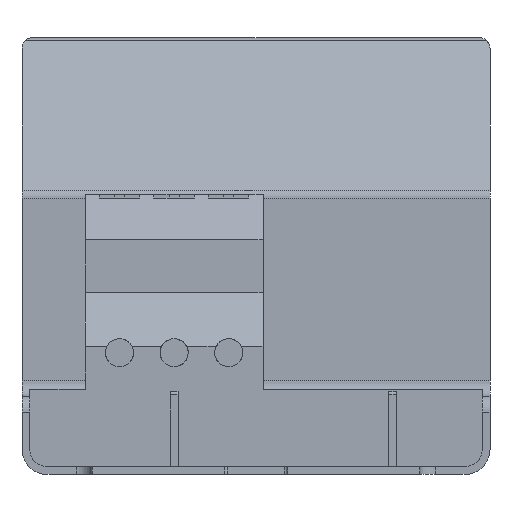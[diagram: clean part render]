
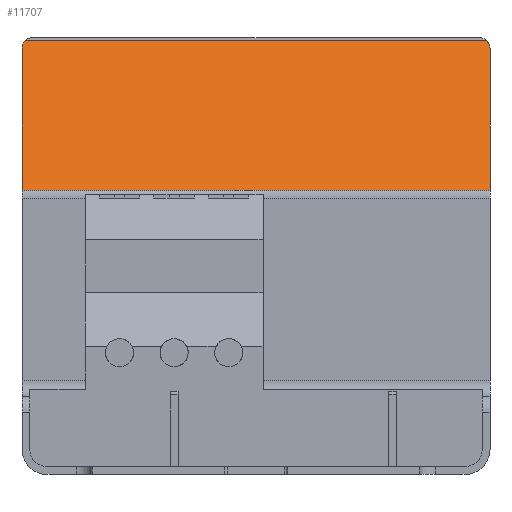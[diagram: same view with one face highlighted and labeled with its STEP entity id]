
A CAD part, front view. The second image highlights one B-rep face of the part: STEP entity #11707.
In plain terms, the highlighted planar face has unit normal (0, -0.707, 0.707).
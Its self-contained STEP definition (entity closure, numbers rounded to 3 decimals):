
#96=DIRECTION('',(0.,0.707,0.707));
#97=VECTOR('',#96,12.862);
#98=CARTESIAN_POINT('',(-15.,-110.495,18.205));
#99=LINE('',#98,#97);
#425=DIRECTION('',(0.,-0.707,-0.707));
#426=VECTOR('',#425,12.862);
#427=CARTESIAN_POINT('',(15.,-101.4,27.3));
#428=LINE('',#427,#426);
#5680=CARTESIAN_POINT('',(15.,-101.4,27.3));
#5681=CARTESIAN_POINT('',(15.,-101.22,27.48));
#5682=CARTESIAN_POINT('',(14.942,-101.052,27.648));
#5683=CARTESIAN_POINT('',(14.795,-100.905,27.795));
#5688=DIRECTION('',(1.,0.,0.));
#5689=VECTOR('',#5688,30.);
#5690=CARTESIAN_POINT('',(-15.,-110.495,18.205));
#5691=LINE('',#5690,#5689);
#5695=CARTESIAN_POINT('',(-14.795,-100.905,
27.795));
#5696=CARTESIAN_POINT('',(-14.942,-101.052,
27.648));
#5697=CARTESIAN_POINT('',(-15.,-101.22,27.48));
#5698=CARTESIAN_POINT('',(-15.,-101.4,27.3));
#5703=DIRECTION('',(1.,0.,0.));
#5704=VECTOR('',#5703,29.59);
#5705=CARTESIAN_POINT('',(-14.795,-100.905,
27.795));
#5706=LINE('',#5705,#5704);
#6363=VERTEX_POINT('',#5680);
#6364=VERTEX_POINT('',#5683);
#6377=VERTEX_POINT('',#5695);
#6378=VERTEX_POINT('',#5698);
#6379=CARTESIAN_POINT('',(-15.,-110.495,18.205));
#6380=VERTEX_POINT('',#6379);
#6383=CARTESIAN_POINT('',(15.,-110.495,18.205));
#6384=VERTEX_POINT('',#6383);
#11691=CARTESIAN_POINT('',(-15.,-110.7,18.));
#11692=DIRECTION('',(0.,-0.707,0.707));
#11693=DIRECTION('',(0.,0.707,0.707));
#11694=AXIS2_PLACEMENT_3D('',#11691,#11692,#11693);
#11695=PLANE('',#11694);
#11697=ORIENTED_EDGE('',*,*,#11696,.F.);
#11698=ORIENTED_EDGE('',*,*,#7268,.T.);
#11699=ORIENTED_EDGE('',*,*,#11685,.F.);
#11700=ORIENTED_EDGE('',*,*,#7080,.T.);
#11702=ORIENTED_EDGE('',*,*,#11701,.F.);
#11704=ORIENTED_EDGE('',*,*,#11703,.T.);
#11705=EDGE_LOOP('',(#11697,#11698,#11699,#11700,#11702,#11704));
#11706=FACE_OUTER_BOUND('',#11705,.F.);
#5684=B_SPLINE_CURVE_WITH_KNOTS('',3,(#5680,#5681,#5682,#5683),.UNSPECIFIED.,
.F.,.F.,(4,4),(0.,1.),.UNSPECIFIED.);
#5699=B_SPLINE_CURVE_WITH_KNOTS('',3,(#5695,#5696,#5697,#5698),.UNSPECIFIED.,
.F.,.F.,(4,4),(0.,1.),.UNSPECIFIED.);
#7080=EDGE_CURVE('',#6380,#6378,#99,.T.);
#7268=EDGE_CURVE('',#6363,#6384,#428,.T.);
#11685=EDGE_CURVE('',#6380,#6384,#5691,.T.);
#11696=EDGE_CURVE('',#6363,#6364,#5684,.T.);
#11701=EDGE_CURVE('',#6377,#6378,#5699,.T.);
#11703=EDGE_CURVE('',#6377,#6364,#5706,.T.);
#11707=ADVANCED_FACE('',(#11706),#11695,.T.);
